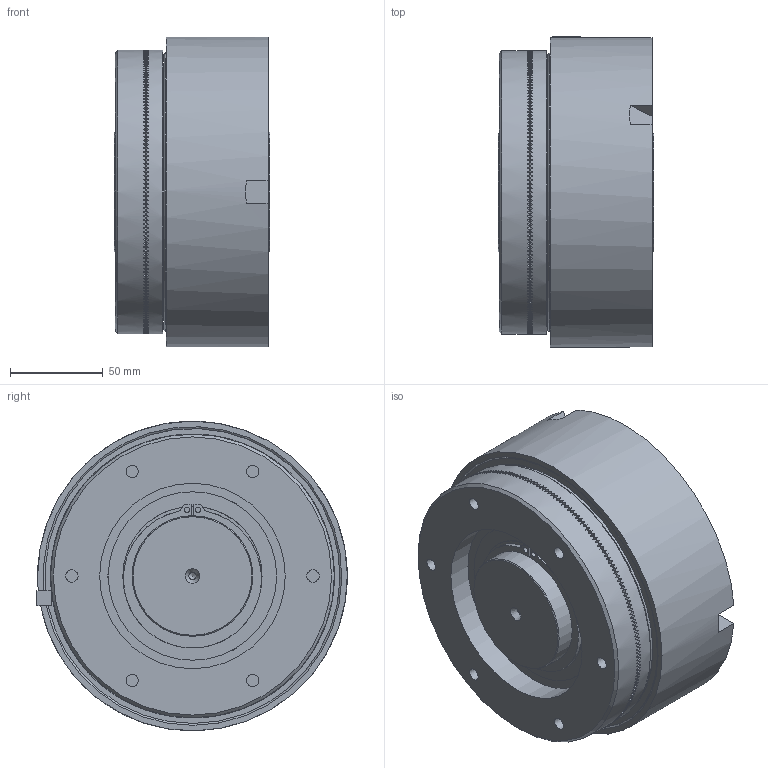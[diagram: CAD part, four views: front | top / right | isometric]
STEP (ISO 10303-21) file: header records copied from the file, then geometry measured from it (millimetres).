
FILE_DESCRIPTION(/* description */ (''),/* implementation_level */ '2;1');
FILE_NAME(/* name */ 'X:\INVENTOR\DISEGNI\03_Friz_Oleod_Pneum_Cil_Stat\03_25 DP\03_25_05_01 DP-05\03_25_05_01 DP 05@STEP.stp',/* time_stamp */ '2023-02-02T08:20:54+01:00',/* author */ ('alessio'),/* organization */ (''),/* preprocessor_version */ 'ST-DEVELOPER v18.1',/* originating_system */ 'Autodesk Inventor 2021',/* authorisation */ '');
FILE_SCHEMA (('AUTOMOTIVE_DESIGN { 1 0 10303 214 3 1 1 }'));
Products named in the file (1): 03_25_05_01 DP 05
Bounding box: 84 x 167.5 x 166.99 mm (x, y, z)
Volume: 1332414.5 mm3; surface area: 302286 mm2
Topology: 3 solids, 12 shells, 2602 faces, 7840 edges, 5204 vertices
Faces by surface type: plane 1887, cylinder 383, torus 237, bspline 39, sphere 35, cone 21
Full cylindrical faces by diameter (mm): 3 x4, 3.5 x2, 4 x2, 6.5 x1, 6.647 x6, 7.5 x4, 11.445 x1, 62 x2, 64.5 x2, 65 x6, 75 x1, 76.2 x2, 88.8 x2, 90.8 x1, 91 x1, 100 x4, 110 x4, 119.5 x2, 120 x2, 125 x2, 127.878 x1, 128 x1, 129.6 x2, 132 x1, 140.4 x2, 141 x2, 142 x1, 150 x2, 151.878 x1, 153 x2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
Entity records: 103677 total; most frequent: CARTESIAN_POINT 27268, DIRECTION 17080, ORIENTED_EDGE 15532, EDGE_CURVE 7766, AXIS2_PLACEMENT_3D 7398, VERTEX_POINT 5204, EDGE_LOOP 2735, ELLIPSE 2647
